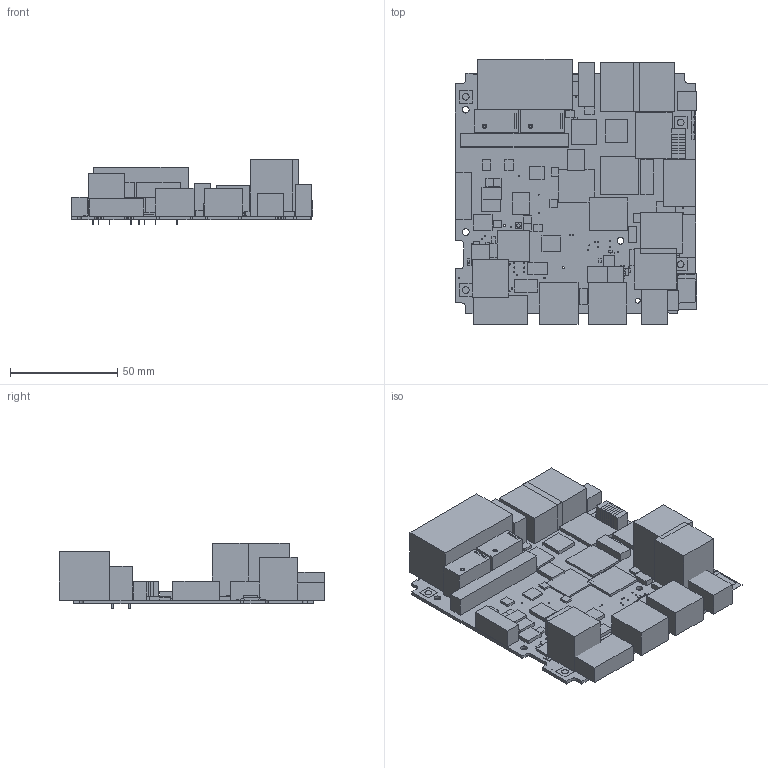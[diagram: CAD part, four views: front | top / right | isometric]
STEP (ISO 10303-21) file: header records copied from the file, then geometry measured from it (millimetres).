
FILE_DESCRIPTION (( 'STEP AP203' ), '1' );
FILE_NAME ('ts7680_c02-lite_cln.STEP', '2026-04-24T16:49:11', ( '' ), ( '' ), 'SwSTEP 2.0', 'SolidWorks 2025', '' );
FILE_SCHEMA (( 'CONFIG_CONTROL_DESIGN' ));
Length unit declared in the file: inch
Products named in the file (1): ts7680_c02-lite_cln
Bounding box: 112.6 x 123.78 x 30.3 mm (x, y, z)
Volume: 120263.6 mm3; surface area: 68816.3 mm2
Topology: 93 solids, 93 shells, 1019 faces, 2450 edges, 1633 vertices
Faces by surface type: plane 700, cylinder 319
Full cylindrical faces by diameter (mm): 0.45 x24, 0.5 x59, 0.75 x10, 0.9 x44, 1 x77, 1.1 x2, 1.2 x28, 1.22 x2, 1.25 x6, 1.35 x4, 1.5 x6, 1.6 x4, 1.7 x3, 2 x2, 2.3 x2, 3.175 x7, 3.2 x8
Entity records: 29209 total; most frequent: DIRECTION 4840, CARTESIAN_POINT 4815, ORIENTED_EDGE 4324, EDGE_CURVE 2162, EDGE_LOOP 1893, AXIS2_PLACEMENT_3D 1658, VERTEX_POINT 1633, VECTOR 1524
